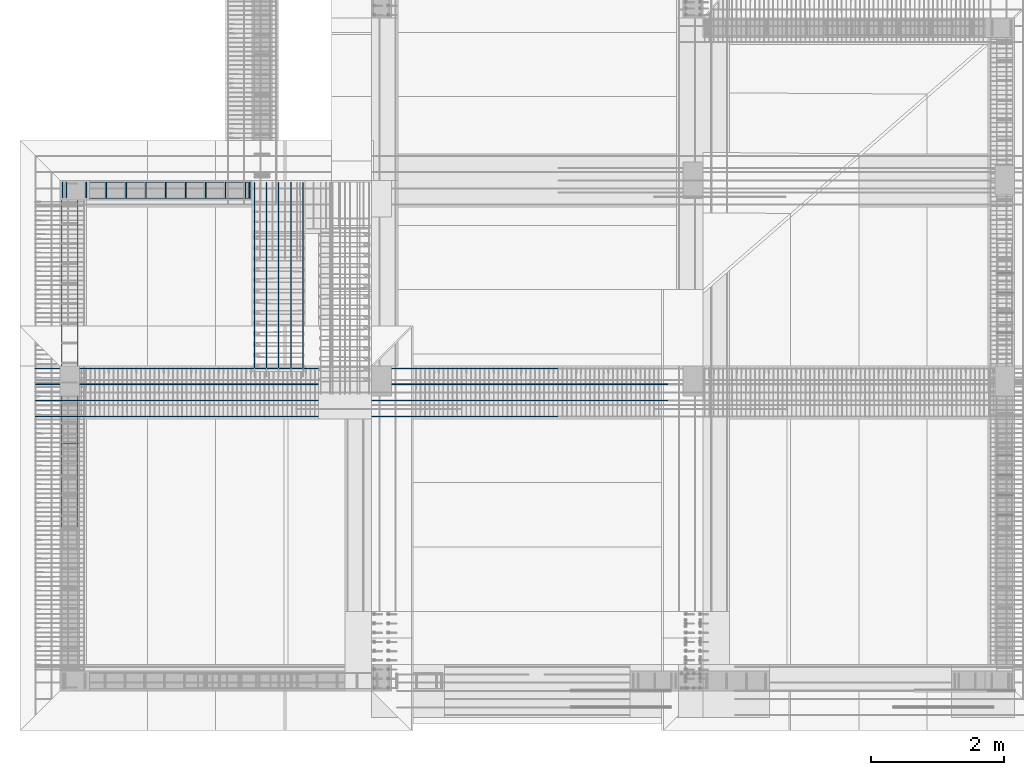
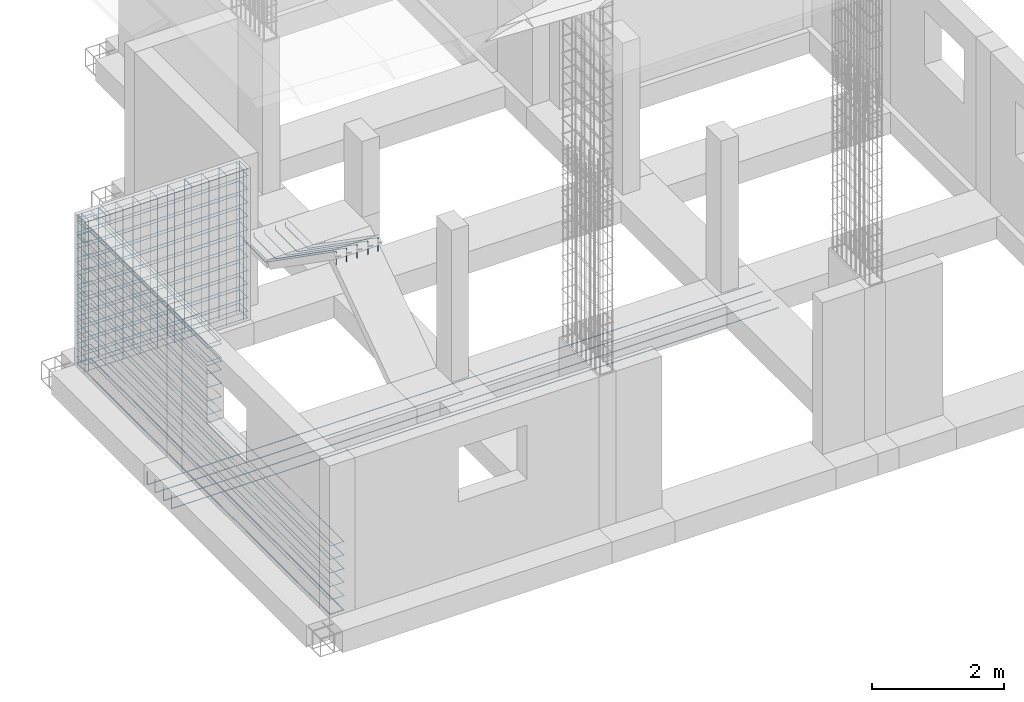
# One storey, part 5 of 15: 6 reinforcing bars.
"""IFC4 building model written with IfcOpenShell, lengths in metres."""

from ifc_helpers import new_model, entity, si_unit, origin_with_axes, place, context, project, spatial, source, transform, mapped, element, save


model = new_model("IFC4")

# Units and contexts
model_context = context("Model", 3, precision=1e-05, world=origin_with_axes())
ifc_project = project(units=[si_unit("LENGTHUNIT", "METRE"), si_unit("AREAUNIT", "SQUARE_METRE"), si_unit("VOLUMEUNIT", "CUBIC_METRE"), si_unit("MASSUNIT", "GRAM", prefix="KILO"), si_unit("TIMEUNIT", "SECOND"), si_unit("PLANEANGLEUNIT", "RADIAN"), si_unit("SOLIDANGLEUNIT", "STERADIAN"), si_unit("THERMODYNAMICTEMPERATUREUNIT", "DEGREE_CELSIUS")], contexts=[model_context])

# Site, building, storey
placement_1 = place(None, origin_with_axes())
site = spatial("IfcSite", under=ifc_project, at=placement_1, Name="Italia", CompositionType="ELEMENT")
building = spatial("IfcBuilding", under=site, at=placement_1, Name="Bifamiliare", CompositionType="ELEMENT")
storey = spatial("IfcBuildingStorey", under=building, at=placement_1, Name="Storey 0", CompositionType="ELEMENT", Elevation=0.0)

# Reinforcing bars
shared_shape_1 = source(origin_with_axes(), model_context, "Body", "AdvancedSweptSolid", [
    entity("IfcSweptDiskSolid", entity("IfcIndexedPolyCurve", entity("IfcCartesianPointList3D", [[1.38, 1.43, 0.03], [1.14, 1.43, 0.03], [1.13617, 1.43076, 0.03], [1.13293, 1.43293, 0.03], [1.13076, 1.43617, 0.03], [1.13, 1.44, 0.03], [1.13, 9.06, 0.03], [1.13076, 9.06383, 0.03], [1.13293, 9.06707, 0.03], [1.13617, 9.06924, 0.03], [1.14, 9.07, 0.03], [1.38, 9.07, 0.03]]), [entity("IfcLineIndex", [1, 2]), entity("IfcLineIndex", [2, 3]), entity("IfcLineIndex", [3, 4]), entity("IfcLineIndex", [4, 5]), entity("IfcLineIndex", [5, 6]), entity("IfcLineIndex", [6, 7]), entity("IfcLineIndex", [7, 8]), entity("IfcLineIndex", [8, 9]), entity("IfcLineIndex", [9, 10]), entity("IfcLineIndex", [10, 11]), entity("IfcLineIndex", [11, 12])], False), 0.005),
])
placement_2 = place(placement_1, origin_with_axes())
reinforcing_bar_1_placement = place(placement_2, origin_with_axes())
element("IfcReinforcingBar", 1, at=reinforcing_bar_1_placement, inside=storey, BarLength=8.13122, CrossSectionArea=7.854e-05, NominalDiameter=0.01, context=model_context, shape_type="MappedRepresentation", body=[
    mapped(shared_shape_1, transform((0.0, 0.0, 0.77), x_axis=(1.0, 0.0, 0.0), y_axis=(0.0, 1.0, 0.0), z_axis=(0.0, 0.0, 1.0), scale=1.0)),
    mapped(shared_shape_1, transform((0.0, 0.0, 0.02), x_axis=(1.0, 0.0, 0.0), y_axis=(0.0, 1.0, 0.0), z_axis=(0.0, 0.0, 1.0), scale=1.0)),
    mapped(shared_shape_1, transform((0.0, 0.0, 0.0), x_axis=(1.0, 0.0, 0.0), y_axis=(0.0, 1.0, 0.0), z_axis=(0.0, 0.0, 1.0), scale=1.0)),
    mapped(shared_shape_1, transform((2.5, 10.5, 0.27), x_axis=(-1.0, 0.0, 0.0), y_axis=(0.0, -1.0, 0.0), z_axis=(0.0, 0.0, 1.0), scale=1.0)),
    mapped(shared_shape_1, transform((0.0, 0.0, 1.27), x_axis=(1.0, 0.0, 0.0), y_axis=(0.0, 1.0, 0.0), z_axis=(0.0, 0.0, 1.0), scale=1.0)),
    mapped(shared_shape_1, transform((0.0, 0.0, 0.27), x_axis=(1.0, 0.0, 0.0), y_axis=(0.0, 1.0, 0.0), z_axis=(0.0, 0.0, 1.0), scale=1.0)),
    mapped(shared_shape_1, transform((2.5, 10.5, 0.52), x_axis=(-1.0, 0.0, 0.0), y_axis=(0.0, -1.0, 0.0), z_axis=(0.0, 0.0, 1.0), scale=1.0)),
    mapped(shared_shape_1, transform((0.0, 0.0, 1.02), x_axis=(1.0, 0.0, 0.0), y_axis=(0.0, 1.0, 0.0), z_axis=(0.0, 0.0, 1.0), scale=1.0)),
    mapped(shared_shape_1, transform((2.5, 10.5, 0.0), x_axis=(-1.0, 0.0, 0.0), y_axis=(0.0, -1.0, 0.0), z_axis=(0.0, 0.0, 1.0), scale=1.0)),
    mapped(shared_shape_1, transform((2.5, 10.5, 0.02), x_axis=(-1.0, 0.0, 0.0), y_axis=(0.0, -1.0, 0.0), z_axis=(0.0, 0.0, 1.0), scale=1.0)),
    mapped(shared_shape_1, transform((0.0, 0.0, 0.52), x_axis=(1.0, 0.0, 0.0), y_axis=(0.0, 1.0, 0.0), z_axis=(0.0, 0.0, 1.0), scale=1.0)),
    mapped(shared_shape_1, transform((2.5, 10.5, 1.27), x_axis=(-1.0, 0.0, 0.0), y_axis=(0.0, -1.0, 0.0), z_axis=(0.0, 0.0, 1.0), scale=1.0)),
    mapped(shared_shape_1, transform((2.5, 10.5, 0.77), x_axis=(-1.0, 0.0, 0.0), y_axis=(0.0, -1.0, 0.0), z_axis=(0.0, 0.0, 1.0), scale=1.0)),
    mapped(shared_shape_1, transform((2.5, 10.5, 1.02), x_axis=(-1.0, 0.0, 0.0), y_axis=(0.0, -1.0, 0.0), z_axis=(0.0, 0.0, 1.0), scale=1.0)),
])
shared_shape_2 = source(origin_with_axes(), model_context, "Body", "AdvancedSweptSolid", [
    entity("IfcSweptDiskSolid", entity("IfcIndexedPolyCurve", entity("IfcCartesianPointList3D", [[1.38, 5.13, 1.475], [1.14, 5.13, 1.475], [1.13617, 5.13076, 1.475], [1.13293, 5.13293, 1.475], [1.13076, 5.13617, 1.475], [1.13, 5.14, 1.475], [1.13, 9.06, 1.475], [1.13076, 9.06383, 1.475], [1.13293, 9.06707, 1.475], [1.13617, 9.06924, 1.475], [1.14, 9.07, 1.475], [1.38, 9.07, 1.475]]), [entity("IfcLineIndex", [1, 2]), entity("IfcLineIndex", [2, 3]), entity("IfcLineIndex", [3, 4]), entity("IfcLineIndex", [4, 5]), entity("IfcLineIndex", [5, 6]), entity("IfcLineIndex", [6, 7]), entity("IfcLineIndex", [7, 8]), entity("IfcLineIndex", [8, 9]), entity("IfcLineIndex", [9, 10]), entity("IfcLineIndex", [10, 11]), entity("IfcLineIndex", [11, 12])], False), 0.005),
])
reinforcing_bar_2_placement = place(placement_2, origin_with_axes())
element("IfcReinforcingBar", 2, at=reinforcing_bar_2_placement, inside=storey, BarLength=4.43122, CrossSectionArea=7.854e-05, NominalDiameter=0.01, context=model_context, shape_type="MappedRepresentation", body=[
    mapped(shared_shape_2, transform((0.0, 0.0, 0.5), x_axis=(1.0, 0.0, 0.0), y_axis=(0.0, 1.0, 0.0), z_axis=(0.0, 0.0, 1.0), scale=1.0)),
    mapped(shared_shape_2, transform((0.0, 0.0, 0.75), x_axis=(1.0, 0.0, 0.0), y_axis=(0.0, 1.0, 0.0), z_axis=(0.0, 0.0, 1.0), scale=1.0)),
    mapped(shared_shape_2, transform((2.5, 14.2, 0.0), x_axis=(-1.0, 0.0, 0.0), y_axis=(0.0, -1.0, 0.0), z_axis=(0.0, 0.0, 1.0), scale=1.0)),
    mapped(shared_shape_2, transform((0.0, 0.0, 0.0), x_axis=(1.0, 0.0, 0.0), y_axis=(0.0, 1.0, 0.0), z_axis=(0.0, 0.0, 1.0), scale=1.0)),
    mapped(shared_shape_2, transform((2.5, 14.2, 0.25), x_axis=(-1.0, 0.0, 0.0), y_axis=(0.0, -1.0, 0.0), z_axis=(0.0, 0.0, 1.0), scale=1.0)),
    mapped(shared_shape_2, transform((0.0, 0.0, 0.25), x_axis=(1.0, 0.0, 0.0), y_axis=(0.0, 1.0, 0.0), z_axis=(0.0, 0.0, 1.0), scale=1.0)),
    mapped(shared_shape_2, transform((2.5, 14.2, 0.5), x_axis=(-1.0, 0.0, 0.0), y_axis=(0.0, -1.0, 0.0), z_axis=(0.0, 0.0, 1.0), scale=1.0)),
    mapped(shared_shape_2, transform((2.5, 14.2, 0.75), x_axis=(-1.0, 0.0, 0.0), y_axis=(0.0, -1.0, 0.0), z_axis=(0.0, 0.0, 1.0), scale=1.0)),
    mapped(shared_shape_2, transform((0.0, 0.0, 1.225), x_axis=(1.0, 0.0, 0.0), y_axis=(0.0, 1.0, 0.0), z_axis=(0.0, 0.0, 1.0), scale=1.0)),
    mapped(shared_shape_2, transform((0.0, 0.0, 1.295), x_axis=(1.0, 0.0, 0.0), y_axis=(0.0, 1.0, 0.0), z_axis=(0.0, 0.0, 1.0), scale=1.0)),
    mapped(shared_shape_2, transform((2.5, 14.2, 0.905), x_axis=(-1.0, 0.0, 0.0), y_axis=(0.0, -1.0, 0.0), z_axis=(0.0, 0.0, 1.0), scale=1.0)),
    mapped(shared_shape_2, transform((0.0, 0.0, 0.905), x_axis=(1.0, 0.0, 0.0), y_axis=(0.0, 1.0, 0.0), z_axis=(0.0, 0.0, 1.0), scale=1.0)),
    mapped(shared_shape_2, transform((2.5, 14.2, 0.975), x_axis=(-1.0, 0.0, 0.0), y_axis=(0.0, -1.0, 0.0), z_axis=(0.0, 0.0, 1.0), scale=1.0)),
    mapped(shared_shape_2, transform((0.0, 0.0, 0.975), x_axis=(1.0, 0.0, 0.0), y_axis=(0.0, 1.0, 0.0), z_axis=(0.0, 0.0, 1.0), scale=1.0)),
    mapped(shared_shape_2, transform((2.5, 14.2, 1.225), x_axis=(-1.0, 0.0, 0.0), y_axis=(0.0, -1.0, 0.0), z_axis=(0.0, 0.0, 1.0), scale=1.0)),
    mapped(shared_shape_2, transform((2.5, 14.2, 1.295), x_axis=(-1.0, 0.0, 0.0), y_axis=(0.0, -1.0, 0.0), z_axis=(0.0, 0.0, 1.0), scale=1.0)),
])
shared_shape_3 = source(origin_with_axes(), model_context, "Body", "AdvancedSweptSolid", [
    entity("IfcSweptDiskSolid", entity("IfcIndexedPolyCurve", entity("IfcCartesianPointList3D", [[1.141, 8.841, 0.0], [1.141, 8.841, 2.781], [1.141, 9.067, 2.781]]), [entity("IfcLineIndex", [1, 2]), entity("IfcLineIndex", [2, 3])], False), 0.006),
])
reinforcing_bar_3_placement = place(placement_2, origin_with_axes())
element("IfcReinforcingBar", 3, at=reinforcing_bar_3_placement, inside=storey, BarLength=3.007, CrossSectionArea=0.0001131, NominalDiameter=0.012, context=model_context, shape_type="MappedRepresentation", body=[
    mapped(shared_shape_3, transform((0.959, 0.0, 0.0), x_axis=(1.0, 0.0, 0.0), y_axis=(0.0, 1.0, 0.0), z_axis=(0.0, 0.0, 1.0), scale=1.0)),
    mapped(shared_shape_3, transform((2.941, 17.9, 0.0), x_axis=(-1.0, 0.0, 0.0), y_axis=(0.0, -1.0, 0.0), z_axis=(0.0, 0.0, 1.0), scale=1.0)),
    mapped(shared_shape_3, transform((0.659001, 0.0, 0.0), x_axis=(1.0, 0.0, 0.0), y_axis=(0.0, 1.0, 0.0), z_axis=(0.0, 0.0, 1.0), scale=1.0)),
    mapped(shared_shape_3, transform((3.541, 17.9, 0.0), x_axis=(-1.0, 0.0, 0.0), y_axis=(0.0, -1.0, 0.0), z_axis=(0.0, 0.0, 1.0), scale=1.0)),
    mapped(shared_shape_3, transform((1.259, 0.0, 0.0), x_axis=(1.0, 0.0, 0.0), y_axis=(0.0, 1.0, 0.0), z_axis=(0.0, 0.0, 1.0), scale=1.0)),
    mapped(shared_shape_3, transform((3.241, 17.9, 0.0), x_axis=(-1.0, 0.0, 0.0), y_axis=(0.0, -1.0, 0.0), z_axis=(0.0, 0.0, 1.0), scale=1.0)),
    mapped(shared_shape_3, transform((0.0590004, 0.0, 0.0), x_axis=(1.0, 0.0, 0.0), y_axis=(0.0, 1.0, 0.0), z_axis=(0.0, 0.0, 1.0), scale=1.0)),
    mapped(shared_shape_3, transform((2.282, 17.9, 0.0), x_axis=(-1.0, 0.0, 0.0), y_axis=(0.0, -1.0, 0.0), z_axis=(0.0, 0.0, 1.0), scale=1.0)),
    mapped(shared_shape_3, transform((0.0, 0.0, 0.0), x_axis=(1.0, 0.0, 0.0), y_axis=(0.0, 1.0, 0.0), z_axis=(0.0, 0.0, 1.0), scale=1.0)),
    mapped(shared_shape_3, transform((2.641, 17.9, 0.0), x_axis=(-1.0, 0.0, 0.0), y_axis=(0.0, -1.0, 0.0), z_axis=(0.0, 0.0, 1.0), scale=1.0)),
    mapped(shared_shape_3, transform((0.359, 0.0, 0.0), x_axis=(1.0, 0.0, 0.0), y_axis=(0.0, 1.0, 0.0), z_axis=(0.0, 0.0, 1.0), scale=1.0)),
    mapped(shared_shape_3, transform((2.341, 17.9, 0.0), x_axis=(-1.0, 0.0, 0.0), y_axis=(0.0, -1.0, 0.0), z_axis=(0.0, 0.0, 1.0), scale=1.0)),
    mapped(shared_shape_3, transform((2.759, 0.0, 0.0), x_axis=(1.0, 0.0, 0.0), y_axis=(0.0, 1.0, 0.0), z_axis=(0.0, 0.0, 1.0), scale=1.0)),
    mapped(shared_shape_3, transform((4.741, 17.9, 0.0), x_axis=(-1.0, 0.0, 0.0), y_axis=(0.0, -1.0, 0.0), z_axis=(0.0, 0.0, 1.0), scale=1.0)),
    mapped(shared_shape_3, transform((2.459, 0.0, 0.0), x_axis=(1.0, 0.0, 0.0), y_axis=(0.0, 1.0, 0.0), z_axis=(0.0, 0.0, 1.0), scale=1.0)),
    mapped(shared_shape_3, transform((5.1, 17.9, 0.0), x_axis=(-1.0, 0.0, 0.0), y_axis=(0.0, -1.0, 0.0), z_axis=(0.0, 0.0, 1.0), scale=1.0)),
    mapped(shared_shape_3, transform((2.818, 0.0, 0.0), x_axis=(1.0, 0.0, 0.0), y_axis=(0.0, 1.0, 0.0), z_axis=(0.0, 0.0, 1.0), scale=1.0)),
    mapped(shared_shape_3, transform((5.041, 17.9, 0.0), x_axis=(-1.0, 0.0, 0.0), y_axis=(0.0, -1.0, 0.0), z_axis=(0.0, 0.0, 1.0), scale=1.0)),
    mapped(shared_shape_3, transform((1.859, 0.0, 0.0), x_axis=(1.0, 0.0, 0.0), y_axis=(0.0, 1.0, 0.0), z_axis=(0.0, 0.0, 1.0), scale=1.0)),
    mapped(shared_shape_3, transform((3.841, 17.9, 0.0), x_axis=(-1.0, 0.0, 0.0), y_axis=(0.0, -1.0, 0.0), z_axis=(0.0, 0.0, 1.0), scale=1.0)),
    mapped(shared_shape_3, transform((1.559, 0.0, 0.0), x_axis=(1.0, 0.0, 0.0), y_axis=(0.0, 1.0, 0.0), z_axis=(0.0, 0.0, 1.0), scale=1.0)),
    mapped(shared_shape_3, transform((4.441, 17.9, 0.0), x_axis=(-1.0, 0.0, 0.0), y_axis=(0.0, -1.0, 0.0), z_axis=(0.0, 0.0, 1.0), scale=1.0)),
    mapped(shared_shape_3, transform((2.159, 0.0, 0.0), x_axis=(1.0, 0.0, 0.0), y_axis=(0.0, 1.0, 0.0), z_axis=(0.0, 0.0, 1.0), scale=1.0)),
    mapped(shared_shape_3, transform((4.141, 17.9, 0.0), x_axis=(-1.0, 0.0, 0.0), y_axis=(0.0, -1.0, 0.0), z_axis=(0.0, 0.0, 1.0), scale=1.0)),
])
shared_shape_4 = source(origin_with_axes(), model_context, "Body", "AdvancedSweptSolid", [
    entity("IfcSweptDiskSolid", entity("IfcIndexedPolyCurve", entity("IfcCartesianPointList3D", [[1.13, 8.82, 0.03], [1.13, 9.06, 0.03], [1.13076, 9.06383, 0.03], [1.13293, 9.06708, 0.03], [1.13617, 9.06924, 0.03], [1.14, 9.07, 0.03], [3.96, 9.07, 0.03], [3.96383, 9.06924, 0.03], [3.96707, 9.06708, 0.03], [3.96924, 9.06383, 0.03], [3.97, 9.06, 0.03], [3.97, 8.82, 0.03]]), [entity("IfcLineIndex", [1, 2]), entity("IfcLineIndex", [2, 3]), entity("IfcLineIndex", [3, 4]), entity("IfcLineIndex", [4, 5]), entity("IfcLineIndex", [5, 6]), entity("IfcLineIndex", [6, 7]), entity("IfcLineIndex", [7, 8]), entity("IfcLineIndex", [8, 9]), entity("IfcLineIndex", [9, 10]), entity("IfcLineIndex", [10, 11]), entity("IfcLineIndex", [11, 12])], False), 0.005),
])
reinforcing_bar_4_placement = place(placement_2, origin_with_axes())
element("IfcReinforcingBar", 4, at=reinforcing_bar_4_placement, inside=storey, BarLength=3.33122, CrossSectionArea=7.854e-05, NominalDiameter=0.01, context=model_context, shape_type="MappedRepresentation", body=[
    mapped(shared_shape_4, transform((5.1, 17.9, 0.0), x_axis=(-1.0, 0.0, 0.0), y_axis=(0.0, -1.0, 0.0), z_axis=(0.0, 0.0, 1.0), scale=1.0)),
    mapped(shared_shape_4, transform((0.0, 0.0, 1.37), x_axis=(1.0, 0.0, 0.0), y_axis=(0.0, 1.0, 0.0), z_axis=(0.0, 0.0, 1.0), scale=1.0)),
    mapped(shared_shape_4, transform((0.0, 0.0, 2.37), x_axis=(1.0, 0.0, 0.0), y_axis=(0.0, 1.0, 0.0), z_axis=(0.0, 0.0, 1.0), scale=1.0)),
    mapped(shared_shape_4, transform((0.0, 0.0, 0.87), x_axis=(1.0, 0.0, 0.0), y_axis=(0.0, 1.0, 0.0), z_axis=(0.0, 0.0, 1.0), scale=1.0)),
    mapped(shared_shape_4, transform((0.0, 0.0, 0.62), x_axis=(1.0, 0.0, 0.0), y_axis=(0.0, 1.0, 0.0), z_axis=(0.0, 0.0, 1.0), scale=1.0)),
    mapped(shared_shape_4, transform((0.0, 0.0, 2.74), x_axis=(1.0, 0.0, 0.0), y_axis=(0.0, 1.0, 0.0), z_axis=(0.0, 0.0, 1.0), scale=1.0)),
    mapped(shared_shape_4, transform((0.0, 0.0, 1.12), x_axis=(1.0, 0.0, 0.0), y_axis=(0.0, 1.0, 0.0), z_axis=(0.0, 0.0, 1.0), scale=1.0)),
    mapped(shared_shape_4, transform((0.0, 0.0, 2.62), x_axis=(1.0, 0.0, 0.0), y_axis=(0.0, 1.0, 0.0), z_axis=(0.0, 0.0, 1.0), scale=1.0)),
    mapped(shared_shape_4, transform((0.0, 0.0, 1.62), x_axis=(1.0, 0.0, 0.0), y_axis=(0.0, 1.0, 0.0), z_axis=(0.0, 0.0, 1.0), scale=1.0)),
    mapped(shared_shape_4, transform((0.0, 0.0, 0.12), x_axis=(1.0, 0.0, 0.0), y_axis=(0.0, 1.0, 0.0), z_axis=(0.0, 0.0, 1.0), scale=1.0)),
    mapped(shared_shape_4, transform((0.0, 0.0, 0.0), x_axis=(1.0, 0.0, 0.0), y_axis=(0.0, 1.0, 0.0), z_axis=(0.0, 0.0, 1.0), scale=1.0)),
    mapped(shared_shape_4, transform((5.1, 17.9, 0.12), x_axis=(-1.0, 0.0, 0.0), y_axis=(0.0, -1.0, 0.0), z_axis=(0.0, 0.0, 1.0), scale=1.0)),
    mapped(shared_shape_4, transform((5.1, 17.9, 0.37), x_axis=(-1.0, 0.0, 0.0), y_axis=(0.0, -1.0, 0.0), z_axis=(0.0, 0.0, 1.0), scale=1.0)),
    mapped(shared_shape_4, transform((0.0, 0.0, 2.12), x_axis=(1.0, 0.0, 0.0), y_axis=(0.0, 1.0, 0.0), z_axis=(0.0, 0.0, 1.0), scale=1.0)),
    mapped(shared_shape_4, transform((0.0, 0.0, 0.37), x_axis=(1.0, 0.0, 0.0), y_axis=(0.0, 1.0, 0.0), z_axis=(0.0, 0.0, 1.0), scale=1.0)),
    mapped(shared_shape_4, transform((5.1, 17.9, 1.37), x_axis=(-1.0, 0.0, 0.0), y_axis=(0.0, -1.0, 0.0), z_axis=(0.0, 0.0, 1.0), scale=1.0)),
    mapped(shared_shape_4, transform((5.1, 17.9, 1.62), x_axis=(-1.0, 0.0, 0.0), y_axis=(0.0, -1.0, 0.0), z_axis=(0.0, 0.0, 1.0), scale=1.0)),
    mapped(shared_shape_4, transform((5.1, 17.9, 1.87), x_axis=(-1.0, 0.0, 0.0), y_axis=(0.0, -1.0, 0.0), z_axis=(0.0, 0.0, 1.0), scale=1.0)),
    mapped(shared_shape_4, transform((5.1, 17.9, 1.12), x_axis=(-1.0, 0.0, 0.0), y_axis=(0.0, -1.0, 0.0), z_axis=(0.0, 0.0, 1.0), scale=1.0)),
    mapped(shared_shape_4, transform((5.1, 17.9, 0.62), x_axis=(-1.0, 0.0, 0.0), y_axis=(0.0, -1.0, 0.0), z_axis=(0.0, 0.0, 1.0), scale=1.0)),
    mapped(shared_shape_4, transform((5.1, 17.9, 0.87), x_axis=(-1.0, 0.0, 0.0), y_axis=(0.0, -1.0, 0.0), z_axis=(0.0, 0.0, 1.0), scale=1.0)),
    mapped(shared_shape_4, transform((0.0, 0.0, 1.87), x_axis=(1.0, 0.0, 0.0), y_axis=(0.0, 1.0, 0.0), z_axis=(0.0, 0.0, 1.0), scale=1.0)),
    mapped(shared_shape_4, transform((5.1, 17.9, 2.37), x_axis=(-1.0, 0.0, 0.0), y_axis=(0.0, -1.0, 0.0), z_axis=(0.0, 0.0, 1.0), scale=1.0)),
    mapped(shared_shape_4, transform((5.1, 17.9, 2.74), x_axis=(-1.0, 0.0, 0.0), y_axis=(0.0, -1.0, 0.0), z_axis=(0.0, 0.0, 1.0), scale=1.0)),
    mapped(shared_shape_4, transform((5.1, 17.9, 2.62), x_axis=(-1.0, 0.0, 0.0), y_axis=(0.0, -1.0, 0.0), z_axis=(0.0, 0.0, 1.0), scale=1.0)),
    mapped(shared_shape_4, transform((5.1, 17.9, 2.12), x_axis=(-1.0, 0.0, 0.0), y_axis=(0.0, -1.0, 0.0), z_axis=(0.0, 0.0, 1.0), scale=1.0)),
])
shared_shape_5 = source(origin_with_axes(), model_context, "Body", "AdvancedSweptSolid", [
    entity("IfcSweptDiskSolid", entity("IfcIndexedPolyCurve", entity("IfcCartesianPointList3D", [[0.735, 5.536, -0.114], [0.735, 5.536, -0.354], [0.735761, 5.536, -0.357827], [0.737929, 5.536, -0.361071], [0.741173, 5.536, -0.363239], [0.745, 5.536, -0.364], [10.8, 5.536, -0.364], [11.3258, 5.536, -0.364]]), [entity("IfcLineIndex", [1, 2]), entity("IfcLineIndex", [2, 3]), entity("IfcLineIndex", [3, 4]), entity("IfcLineIndex", [4, 5]), entity("IfcLineIndex", [5, 6]), entity("IfcLineIndex", [6, 7]), entity("IfcLineIndex", [7, 8])], False), 0.008),
])
reinforcing_bar_5_placement = place(placement_2, origin_with_axes())
element("IfcReinforcingBar", 5, at=reinforcing_bar_5_placement, inside=storey, BarLength=10.8364, CrossSectionArea=0.00020106, NominalDiameter=0.016, context=model_context, shape_type="MappedRepresentation", body=[
    mapped(shared_shape_5, transform((0.0, 0.728, 0.0), x_axis=(1.0, 0.0, 0.0), y_axis=(0.0, 1.0, 0.0), z_axis=(0.0, 0.0, 1.0), scale=1.0)),
    mapped(shared_shape_5, transform((0.0, 0.0, 0.0), x_axis=(1.0, 0.0, 0.0), y_axis=(0.0, 1.0, 0.0), z_axis=(0.0, 0.0, 1.0), scale=1.0)),
    mapped(shared_shape_5, transform((0.0, 0.488, 0.0), x_axis=(1.0, 0.0, 0.0), y_axis=(0.0, 1.0, 0.0), z_axis=(0.0, 0.0, 1.0), scale=1.0)),
    mapped(shared_shape_5, transform((0.0, 0.24, 0.0), x_axis=(1.0, 0.0, 0.0), y_axis=(0.0, 1.0, 0.0), z_axis=(0.0, 0.0, 1.0), scale=1.0)),
])
shared_shape_6 = source(origin_with_axes(), model_context, "Body", "AdvancedSweptSolid", [
    entity("IfcSweptDiskSolid", entity("IfcIndexedPolyCurve", entity("IfcCartesianPointList3D", [[4.765, 6.27397, 2.5255], [4.765, 6.27397, 2.75629], [4.765, 6.27542, 2.76148], [4.765, 6.27935, 2.76516], [4.765, 6.28462, 2.76627], [4.765, 6.2897, 2.76449], [4.765, 8.28897, 1.365], [4.765, 8.40067, 1.28681], [4.765, 8.40198, 1.28603], [4.765, 8.4034, 1.28546], [4.765, 8.40488, 1.28512], [4.765, 8.4064, 1.285], [4.765, 9.055, 1.285], [4.765, 9.05883, 1.28576], [4.765, 9.06207, 1.28793], [4.765, 9.06424, 1.29117], [4.765, 9.065, 1.295], [4.765, 9.065, 1.365]]), [entity("IfcLineIndex", [1, 2]), entity("IfcLineIndex", [2, 3]), entity("IfcLineIndex", [3, 4]), entity("IfcLineIndex", [4, 5]), entity("IfcLineIndex", [5, 6]), entity("IfcLineIndex", [6, 7]), entity("IfcLineIndex", [7, 8]), entity("IfcLineIndex", [8, 9]), entity("IfcLineIndex", [9, 10]), entity("IfcLineIndex", [10, 11]), entity("IfcLineIndex", [11, 12]), entity("IfcLineIndex", [12, 13]), entity("IfcLineIndex", [13, 14]), entity("IfcLineIndex", [14, 15]), entity("IfcLineIndex", [15, 16]), entity("IfcLineIndex", [16, 17]), entity("IfcLineIndex", [17, 18])], False), 0.007),
])
reinforcing_bar_6_placement = place(placement_2, origin_with_axes())
element("IfcReinforcingBar", 6, at=reinforcing_bar_6_placement, inside=storey, BarLength=3.56941, CrossSectionArea=0.00015394, NominalDiameter=0.014, context=model_context, shape_type="MappedRepresentation", body=[
    mapped(shared_shape_6, transform((0.0, 0.0, 0.0), x_axis=(1.0, 0.0, 0.0), y_axis=(0.0, 1.0, 0.0), z_axis=(0.0, 0.0, 1.0), scale=1.0)),
    mapped(shared_shape_6, transform((-0.73, 0.0, 0.0), x_axis=(1.0, 0.0, 0.0), y_axis=(0.0, 1.0, 0.0), z_axis=(0.0, 0.0, 1.0), scale=1.0)),
    mapped(shared_shape_6, transform((-0.179, 0.0, 0.0), x_axis=(1.0, 0.0, 0.0), y_axis=(0.0, 1.0, 0.0), z_axis=(0.0, 0.0, 1.0), scale=1.0)),
    mapped(shared_shape_6, transform((-0.365, 0.0, 0.0), x_axis=(1.0, 0.0, 0.0), y_axis=(0.0, 1.0, 0.0), z_axis=(0.0, 0.0, 1.0), scale=1.0)),
    mapped(shared_shape_6, transform((-0.551, 0.0, 0.0), x_axis=(1.0, 0.0, 0.0), y_axis=(0.0, 1.0, 0.0), z_axis=(0.0, 0.0, 1.0), scale=1.0)),
])

save(model, "model.ifc")
